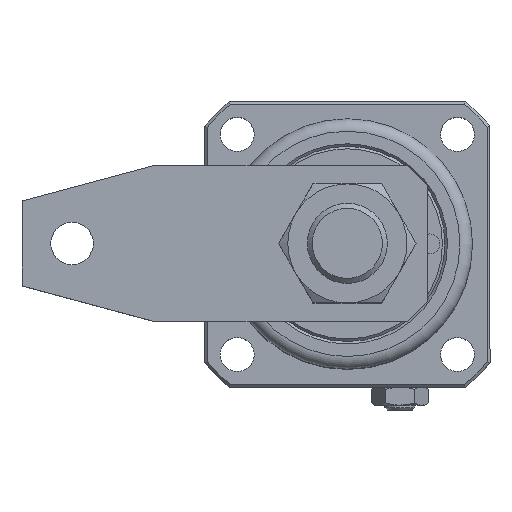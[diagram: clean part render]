
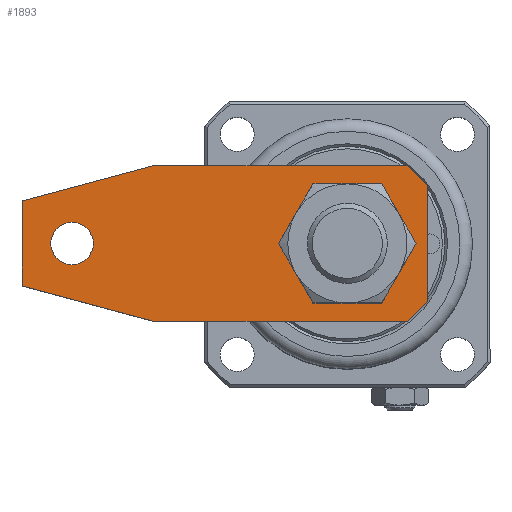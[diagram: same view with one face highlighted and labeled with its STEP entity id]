
A CAD part, top view. The second image highlights one B-rep face of the part: STEP entity #1893.
In plain terms, the highlighted planar face has unit normal (0, 0, 1).
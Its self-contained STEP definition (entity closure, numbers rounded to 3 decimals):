
#248=CIRCLE('',#2445,4.25);
#249=CIRCLE('',#2446,8.5);
#762=ORIENTED_EDGE('',*,*,#1022,.F.);
#763=ORIENTED_EDGE('',*,*,#1023,.F.);
#764=ORIENTED_EDGE('',*,*,#996,.T.);
#765=ORIENTED_EDGE('',*,*,#1000,.T.);
#766=ORIENTED_EDGE('',*,*,#1003,.T.);
#767=ORIENTED_EDGE('',*,*,#1006,.T.);
#768=ORIENTED_EDGE('',*,*,#1009,.T.);
#769=ORIENTED_EDGE('',*,*,#1012,.T.);
#770=ORIENTED_EDGE('',*,*,#1015,.T.);
#771=ORIENTED_EDGE('',*,*,#1018,.T.);
#996=EDGE_CURVE('',#1174,#1175,#1240,.T.);
#1000=EDGE_CURVE('',#1175,#1178,#1244,.T.);
#1003=EDGE_CURVE('',#1178,#1180,#1247,.T.);
#1006=EDGE_CURVE('',#1180,#1182,#1250,.T.);
#1009=EDGE_CURVE('',#1182,#1184,#1253,.T.);
#1012=EDGE_CURVE('',#1184,#1186,#1256,.T.);
#1015=EDGE_CURVE('',#1186,#1188,#1259,.T.);
#1018=EDGE_CURVE('',#1188,#1174,#1262,.T.);
#1022=EDGE_CURVE('',#1192,#1192,#248,.T.);
#1023=EDGE_CURVE('',#1193,#1193,#249,.T.);
#1174=VERTEX_POINT('',#3843);
#1175=VERTEX_POINT('',#3844);
#1178=VERTEX_POINT('',#3852);
#1180=VERTEX_POINT('',#3858);
#1182=VERTEX_POINT('',#3864);
#1184=VERTEX_POINT('',#3870);
#1186=VERTEX_POINT('',#3876);
#1188=VERTEX_POINT('',#3882);
#1192=VERTEX_POINT('',#3896);
#1193=VERTEX_POINT('',#3898);
#1240=LINE('',#3842,#1308);
#1244=LINE('',#3851,#1312);
#1247=LINE('',#3857,#1315);
#1250=LINE('',#3863,#1318);
#1253=LINE('',#3869,#1321);
#1256=LINE('',#3875,#1324);
#1259=LINE('',#3881,#1327);
#1262=LINE('',#3887,#1330);
#1308=VECTOR('',#2880,1000.);
#1312=VECTOR('',#2886,1000.);
#1315=VECTOR('',#2891,1000.);
#1318=VECTOR('',#2896,1000.);
#1321=VECTOR('',#2901,1000.);
#1324=VECTOR('',#2906,1000.);
#1327=VECTOR('',#2911,1000.);
#1330=VECTOR('',#2916,1000.);
#1511=EDGE_LOOP('',(#762));
#1512=EDGE_LOOP('',(#763));
#1513=EDGE_LOOP('',(#764,#765,#766,#767,#768,#769,#770,#771));
#1701=FACE_BOUND('',#1511,.T.);
#1702=FACE_BOUND('',#1512,.T.);
#1703=FACE_BOUND('',#1513,.T.);
#1766=PLANE('',#2444);
#1893=ADVANCED_FACE('',(#1701,#1702,#1703),#1766,.F.);
#2444=AXIS2_PLACEMENT_3D('',#3894,#2924,#2925);
#2445=AXIS2_PLACEMENT_3D('',#3895,#2926,#2927);
#2446=AXIS2_PLACEMENT_3D('',#3897,#2928,#2929);
#2880=DIRECTION('',(-0.707,0.707,0.));
#2886=DIRECTION('',(-1.,0.,0.));
#2891=DIRECTION('',(-0.966,-0.259,0.));
#2896=DIRECTION('',(0.,-1.,0.));
#2901=DIRECTION('',(0.966,-0.259,0.));
#2906=DIRECTION('',(1.,0.,0.));
#2911=DIRECTION('',(0.707,0.707,0.));
#2916=DIRECTION('',(0.,1.,0.));
#2924=DIRECTION('',(0.,0.,-1.));
#2925=DIRECTION('',(0.,1.,0.));
#2926=DIRECTION('',(0.,0.,1.));
#2927=DIRECTION('',(1.,0.,0.));
#2928=DIRECTION('',(0.,0.,1.));
#2929=DIRECTION('',(1.,0.,0.));
#3842=CARTESIAN_POINT('',(36.5,31.,8.5));
#3843=CARTESIAN_POINT('',(40.5,27.,8.5));
#3844=CARTESIAN_POINT('',(36.5,31.,8.5));
#3851=CARTESIAN_POINT('',(36.5,31.,8.5));
#3852=CARTESIAN_POINT('',(-14.376,31.,8.5));
#3857=CARTESIAN_POINT('',(-40.5,24.,8.5));
#3858=CARTESIAN_POINT('',(-40.5,24.,8.5));
#3863=CARTESIAN_POINT('',(-40.5,24.,8.5));
#3864=CARTESIAN_POINT('',(-40.5,7.,8.5));
#3869=CARTESIAN_POINT('',(-40.5,7.,8.5));
#3870=CARTESIAN_POINT('',(-14.376,0.,8.5));
#3875=CARTESIAN_POINT('',(-14.376,0.,8.5));
#3876=CARTESIAN_POINT('',(36.5,0.,8.5));
#3881=CARTESIAN_POINT('',(40.5,4.,8.5));
#3882=CARTESIAN_POINT('',(40.5,4.,8.5));
#3887=CARTESIAN_POINT('',(40.5,4.,8.5));
#3894=CARTESIAN_POINT('',(0.,0.,8.5));
#3895=CARTESIAN_POINT('',(-30.5,15.5,8.5));
#3896=CARTESIAN_POINT('',(-26.25,15.5,8.5));
#3897=CARTESIAN_POINT('',(24.5,15.5,8.5));
#3898=CARTESIAN_POINT('',(33.,15.5,8.5));
